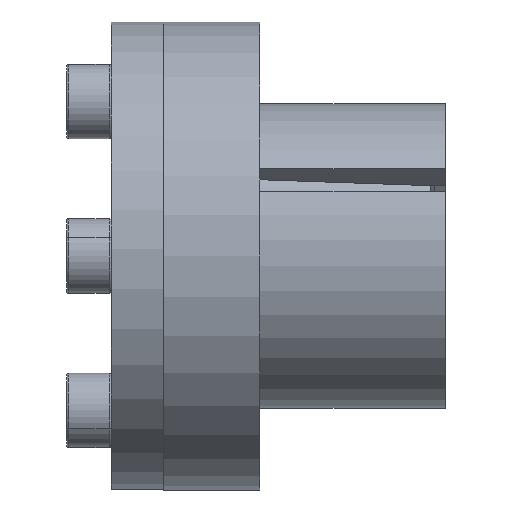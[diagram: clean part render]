
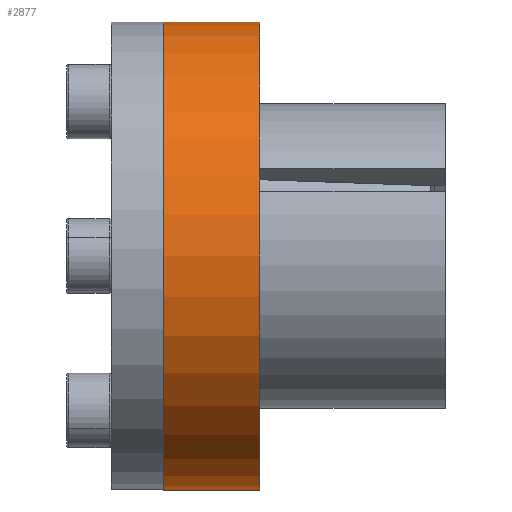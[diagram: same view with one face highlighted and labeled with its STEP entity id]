
A CAD part, front view. The second image highlights one B-rep face of the part: STEP entity #2877.
In plain terms, the highlighted cylindrical face has radius 31.5 mm (diameter 63 mm), a partial arc.
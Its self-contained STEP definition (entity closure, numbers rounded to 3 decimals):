
#130 = VECTOR ( 'NONE', #3234, 1000. ) ;
#225 = DIRECTION ( 'NONE',  ( -1., 0., 0. ) ) ;
#282 = CARTESIAN_POINT ( 'NONE',  ( -15.5, 0., -31.5 ) ) ;
#397 = CARTESIAN_POINT ( 'NONE',  ( -2.5, 0., 31.5 ) ) ;
#528 = VECTOR ( 'NONE', #2802, 1000. ) ;
#587 = AXIS2_PLACEMENT_3D ( 'NONE', #4569, #4156, #1206 ) ;
#1056 = AXIS2_PLACEMENT_3D ( 'NONE', #2494, #5402, #2942 ) ;
#1095 = VERTEX_POINT ( 'NONE', #4502 ) ;
#1206 = DIRECTION ( 'NONE',  ( 0., 0., 1. ) ) ;
#1256 = LINE ( 'NONE', #5072, #130 ) ;
#1327 = CARTESIAN_POINT ( 'NONE',  ( -15.5, 0., 31.5 ) ) ;
#1450 = AXIS2_PLACEMENT_3D ( 'NONE', #2776, #225, #3218 ) ;
#1889 = EDGE_CURVE ( 'NONE', #1095, #3266, #2764, .T. ) ;
#1977 = ORIENTED_EDGE ( 'NONE', *, *, #4699, .T. ) ;
#2379 = EDGE_LOOP ( 'NONE', ( #3422, #1977, #4326, #3399 ) ) ;
#2494 = CARTESIAN_POINT ( 'NONE',  ( -15.5, 0., 0. ) ) ;
#2629 = CIRCLE ( 'NONE', #1450, 31.5 ) ;
#2764 = LINE ( 'NONE', #5274, #528 ) ;
#2776 = CARTESIAN_POINT ( 'NONE',  ( -2.5, 0., 0. ) ) ;
#2802 = DIRECTION ( 'NONE',  ( -1., 0., 0. ) ) ;
#2877 = ADVANCED_FACE ( 'NONE', ( #3191 ), #2923, .T. ) ;
#2923 = CYLINDRICAL_SURFACE ( 'NONE', #587, 31.5 ) ;
#2942 = DIRECTION ( 'NONE',  ( 0., 0., 1. ) ) ;
#3191 = FACE_OUTER_BOUND ( 'NONE', #2379, .T. ) ;
#3218 = DIRECTION ( 'NONE',  ( 0., 0., 1. ) ) ;
#3234 = DIRECTION ( 'NONE',  ( -1., 0., 0. ) ) ;
#3266 = VERTEX_POINT ( 'NONE', #282 ) ;
#3399 = ORIENTED_EDGE ( 'NONE', *, *, #4853, .F. ) ;
#3422 = ORIENTED_EDGE ( 'NONE', *, *, #1889, .F. ) ;
#3425 = EDGE_CURVE ( 'NONE', #4465, #4572, #1256, .T. ) ;
#3931 = CIRCLE ( 'NONE', #1056, 31.5 ) ;
#4156 = DIRECTION ( 'NONE',  ( -1., 0., 0. ) ) ;
#4326 = ORIENTED_EDGE ( 'NONE', *, *, #3425, .T. ) ;
#4465 = VERTEX_POINT ( 'NONE', #397 ) ;
#4502 = CARTESIAN_POINT ( 'NONE',  ( -2.5, 0., -31.5 ) ) ;
#4569 = CARTESIAN_POINT ( 'NONE',  ( -22.5, 0., 0. ) ) ;
#4572 = VERTEX_POINT ( 'NONE', #1327 ) ;
#4699 = EDGE_CURVE ( 'NONE', #1095, #4465, #2629, .T. ) ;
#4853 = EDGE_CURVE ( 'NONE', #3266, #4572, #3931, .T. ) ;
#5072 = CARTESIAN_POINT ( 'NONE',  ( -22.5, 0., 31.5 ) ) ;
#5274 = CARTESIAN_POINT ( 'NONE',  ( -22.5, 0., -31.5 ) ) ;
#5402 = DIRECTION ( 'NONE',  ( -1., 0., 0. ) ) ;
